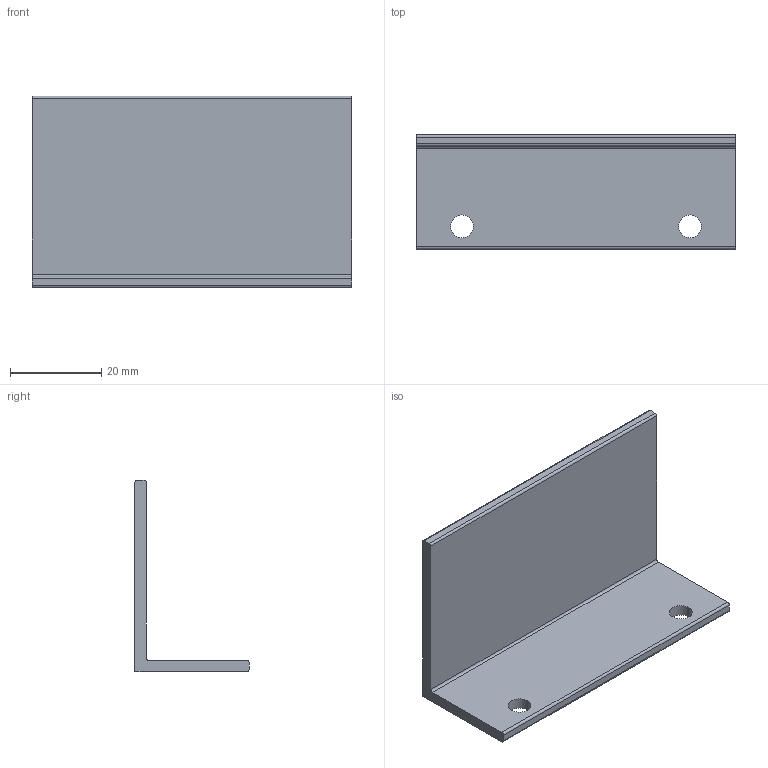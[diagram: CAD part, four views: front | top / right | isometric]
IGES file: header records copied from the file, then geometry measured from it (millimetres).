
Start section: Data from XPlus IGES,  Spatial Corp. Copyright (c) 1999-2004
Global section: file name:  9070588.igs; native system:  By Spatial Corp.; preprocessor: XPlus ACIS/IGES 3.0; author: Noname; organization: Noname; date: 20130226.190212; units: millimetre
Bounding box: 70 x 25 x 42 mm (x, y, z)
Surface area: 9627.1 mm2 (no closed solid volume)
Topology: 0 solids, 0 shells, 17 faces, 90 edges, 90 vertices
Faces by surface type: revolution 9, extrusion 8
